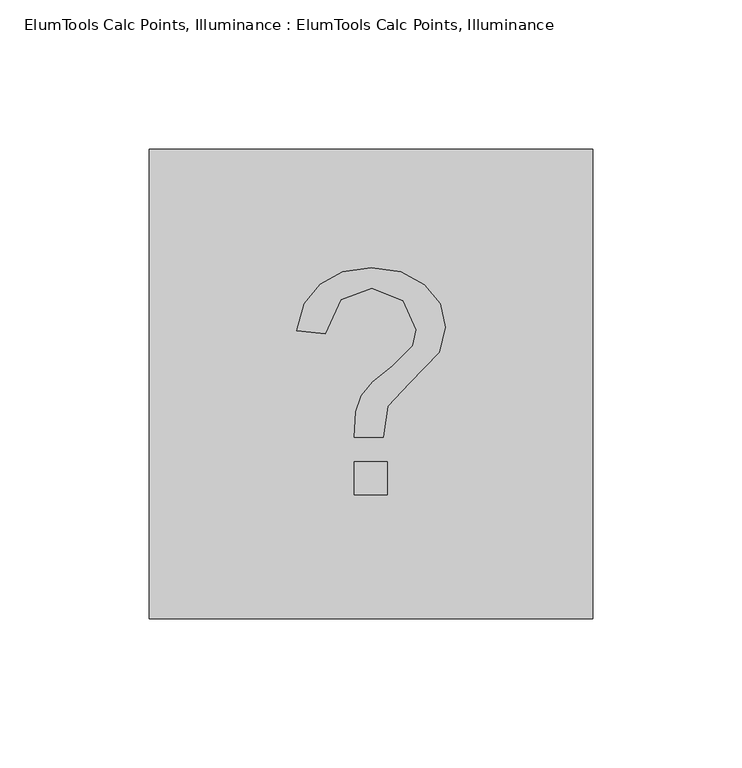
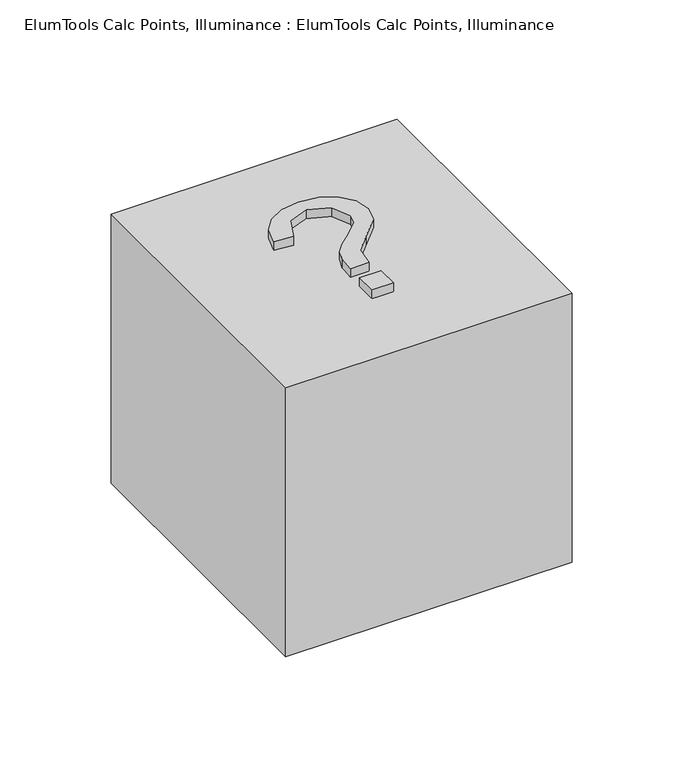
"""IFC4 building model written with IfcOpenShell, lengths in millimetres: proxy geometry, ElumTools Calc Points, Illuminance : ElumTools Calc Points, Illuminance."""

from ifc_helpers import new_model, si_unit, origin, origin_with_axes, place, context, project, spatial, polyline, outline, extrude, source, transform, mapped, element, save


def elumtools_calc_points_illuminance_elumtools_calc_points_8f992433(model_context):
    return source(origin(), model_context, "Body", "SweptSolid", [
        extrude(outline(polyline([(5.5411738, -37.1855792), (-5.5411738, -37.1855792), (-5.5411738, -26.1032315), (5.5411738, -26.1032315), (5.5411738, -37.1855792)])), origin_with_axes(), (0.0, 0.0, 1.0), 152.4),
        extrude(outline(polyline([(-24.9352823, 17.8365455), (-22.3649136, 26.8138965), (-17.078071, 33.4860325), (-9.4589569, 37.625679), (0.1082261, 39.0055612), (10.0027928, 37.5796829), (17.954702, 33.3020483), (23.1901372, 26.8653038), (24.9352823, 18.9620964), (22.8465195, 10.5854), (12.9221906, 0.195699), (5.6061095, -7.531641), (4.1558804, -17.7914707), (-5.5411738, -17.7914707), (-5.0758018, -9.2849031), (-3.1818459, -4.0359396), (0.6168885, 0.6935389), (7.2727907, 6.0831963), (13.9936285, 12.8689697), (15.2382281, 18.1612236), (10.855073, 27.8907457), (0.1948069, 32.0790939), (-10.0596115, 28.2695368), (-15.2382281, 16.8408658), (-24.9352823, 17.8365455)])), origin_with_axes(), (0.0, 0.0, 1.0), 152.4),
        extrude(outline(polyline([(-74.3711584, -78.737966), (-74.3711584, 78.737966), (74.3711584, 78.737966), (74.3711584, -78.737966), (-74.3711584, -78.737966)])), origin_with_axes(), (0.0, 0.0, 1.0), 147.828),
    ])


if __name__ == "__main__":
    model = new_model("IFC4")
    model_context = context("Model", 3, world=origin())
    ifc_project = project(units=[si_unit("LENGTHUNIT", "METRE", prefix="MILLI")], contexts=[model_context])
    site = spatial("IfcSite", under=ifc_project)
    building = spatial("IfcBuilding", under=site)
    placement = place(None, origin())
    elumtools_calc_points_illuminance_elumtools_calc_points_shape = elumtools_calc_points_illuminance_elumtools_calc_points_8f992433(model_context)
    element("IfcBuildingElementProxy", 1, Name="ElumTools Calc Points, Illuminance : ElumTools Calc Points, Illuminance", ObjectType="ElumTools Calc Points, Illuminance : ElumTools Calc Points, Illuminance", at=placement, inside=building, context=model_context, shape_type="MappedRepresentation", body=[
        mapped(elumtools_calc_points_illuminance_elumtools_calc_points_shape, transform((0.0, 0.0, 0.0), x_axis=(1.0, 0.0, 0.0), y_axis=(0.0, 1.0, 0.0), z_axis=(0.0, 0.0, 1.0))),
    ])
    save(model, "model.ifc")
